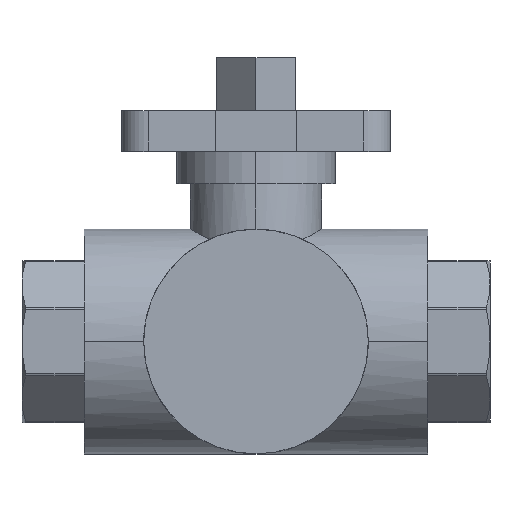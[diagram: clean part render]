
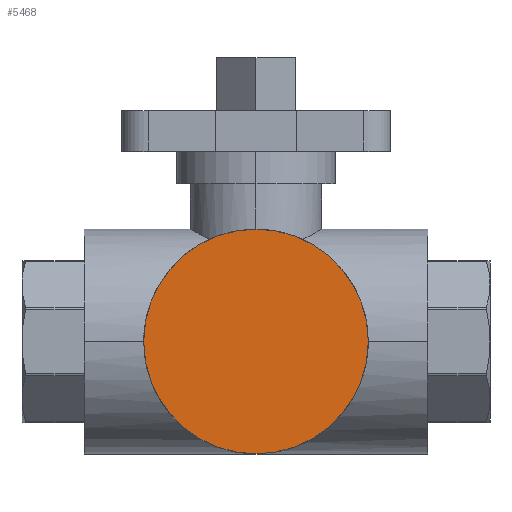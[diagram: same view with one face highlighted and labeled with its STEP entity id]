
A CAD part, top view. The second image highlights one B-rep face of the part: STEP entity #5468.
In plain terms, the highlighted planar face has unit normal (0, 0, 1).
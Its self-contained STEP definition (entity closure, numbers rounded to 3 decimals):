
#252 = AXIS2_PLACEMENT_3D ( 'NONE', #4545, #3249, #676 ) ;
#308 = DIRECTION ( 'NONE',  ( 1., 0., 0. ) ) ;
#612 = CARTESIAN_POINT ( 'NONE',  ( -18., 0., 18. ) ) ;
#676 = DIRECTION ( 'NONE',  ( -1., 0., 0. ) ) ;
#902 = CARTESIAN_POINT ( 'NONE',  ( 18., 0., 18. ) ) ;
#916 = EDGE_LOOP ( 'NONE', ( #1687, #2890 ) ) ;
#1356 = EDGE_CURVE ( 'NONE', #1779, #4554, #2984, .T. ) ;
#1516 = PLANE ( 'NONE',  #252 ) ;
#1687 = ORIENTED_EDGE ( 'NONE', *, *, #1356, .T. ) ;
#1779 = VERTEX_POINT ( 'NONE', #612 ) ;
#1922 = EDGE_CURVE ( 'NONE', #4554, #1779, #2974, .T. ) ;
#1996 = DIRECTION ( 'NONE',  ( 0., 0., 1. ) ) ;
#2887 = DIRECTION ( 'NONE',  ( 0., 0., 1. ) ) ;
#2890 = ORIENTED_EDGE ( 'NONE', *, *, #1922, .T. ) ;
#2974 = CIRCLE ( 'NONE', #4584, 18. ) ;
#2984 = CIRCLE ( 'NONE', #3627, 18. ) ;
#3249 = DIRECTION ( 'NONE',  ( 0., 0., -1. ) ) ;
#3627 = AXIS2_PLACEMENT_3D ( 'NONE', #4591, #1996, #5024 ) ;
#4545 = CARTESIAN_POINT ( 'NONE',  ( 0., 18., 18. ) ) ;
#4554 = VERTEX_POINT ( 'NONE', #902 ) ;
#4584 = AXIS2_PLACEMENT_3D ( 'NONE', #5461, #2887, #308 ) ;
#4591 = CARTESIAN_POINT ( 'NONE',  ( 0., 0., 18. ) ) ;
#5024 = DIRECTION ( 'NONE',  ( 1., 0., 0. ) ) ;
#5206 = FACE_OUTER_BOUND ( 'NONE', #916, .T. ) ;
#5461 = CARTESIAN_POINT ( 'NONE',  ( 0., 0., 18. ) ) ;
#5468 = ADVANCED_FACE ( 'NONE', ( #5206 ), #1516, .F. ) ;
